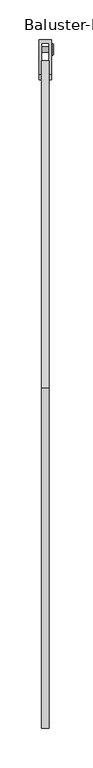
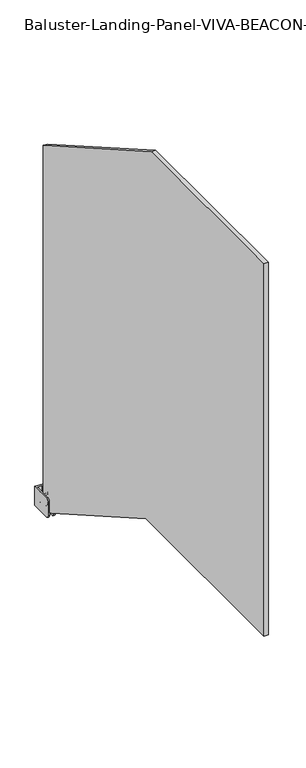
"""IFC4 building model written with IfcOpenShell, lengths in millimetres: railing geometry, Baluster-Landing-Panel-VIVA-BEACON-Lower : Standard_Glass."""

import ifcopenshell
import ifcopenshell.guid

model = None  # the IFC model being written
_history = None  # IfcOwnerHistory: only IFC2X3 demands one
_inside = {}  # id of a spatial element -> (the spatial element, [elements in it])
_under = {}  # id of a project, library or spatial element -> (it, [spatial elements below it])
_declared = {}  # id of a project -> (the project, [libraries it declares])
_typed = {}  # id of a type object -> (the type object, [elements of that type])
_made_of = {}  # id of a material, layer set ... -> (it, [elements and type objects made of it])


def new_model(schema):
    """Start an empty IFC model of exactly this schema.

    Asked for "IFC4X3", IfcOpenShell would pick the latest addendum, in which some entities
    have other attributes; the version numbers below select the first issue.
    IFC2X3 requires an IfcOwnerHistory on every rooted entity: one is made here for all.
    """
    global model, _history
    if schema == "IFC4X3":
        model = ifcopenshell.file(schema_version=(4, 3, 0, 0))
    else:
        model = ifcopenshell.file(schema=schema)
    _inside.clear()
    _under.clear()
    _declared.clear()
    _typed.clear()
    _made_of.clear()
    _history = None
    if model.schema == "IFC2X3":
        org = make("IfcOrganization", Name="unknown")
        user = make(
            "IfcPersonAndOrganization",
            ThePerson=make("IfcPerson", FamilyName="unknown"),
            TheOrganization=org,
        )
        app = make(
            "IfcApplication",
            ApplicationDeveloper=org,
            Version="unknown",
            ApplicationFullName="unknown",
            ApplicationIdentifier="unknown",
        )
        _history = make(
            "IfcOwnerHistory",
            OwningUser=user,
            OwningApplication=app,
            ChangeAction="ADDED",
            CreationDate=0,
        )
    return model


def make(cls, **values):
    """One entity of the class cls with the attributes given. An attribute that is None is left unset."""
    return model.create_entity(
        cls, **{name: value for name, value in values.items() if value is not None}
    )


def rooted(cls, **values):
    """An entity with a GlobalId (a new one), such as an element, a storey or a relation."""
    return make(cls, GlobalId=ifcopenshell.guid.new(), OwnerHistory=_history, **values)


def si_unit(unit_type, name, prefix=None):
    """IfcSIUnit, for example si_unit("LENGTHUNIT", "METRE", prefix="MILLI")."""
    return make("IfcSIUnit", UnitType=unit_type, Prefix=prefix, Name=name)


def assignment(units):
    """IfcUnitAssignment: the units of a project."""
    return None if units is None else make("IfcUnitAssignment", Units=units)


def point(xyz):
    """IfcCartesianPoint."""
    return None if xyz is None else make("IfcCartesianPoint", Coordinates=xyz)


def direction(xyz):
    """IfcDirection."""
    return None if xyz is None else make("IfcDirection", DirectionRatios=xyz)


def frame(location, z_axis=None, x_axis=None):
    """IfcAxis2Placement3D, a coordinate frame: its origin and axes. An axis left out is left unset."""
    return make(
        "IfcAxis2Placement3D",
        Location=point(location),
        Axis=direction(z_axis),
        RefDirection=direction(x_axis),
    )


def origin():
    """The frame at (0, 0, 0) with its axes left unset."""
    return frame((0.0, 0.0, 0.0))


def place(relative_to, where):
    """IfcLocalPlacement: puts the frame where relative to a parent placement (None: the world)."""
    return make(
        "IfcLocalPlacement", PlacementRelTo=relative_to, RelativePlacement=where
    )


def context(
    kind, dimensions, precision=None, world=None, true_north=None, identifier=None
):
    """IfcGeometricRepresentationContext, for example the 3D "Model" context."""
    return make(
        "IfcGeometricRepresentationContext",
        ContextIdentifier=identifier,
        ContextType=kind,
        CoordinateSpaceDimension=dimensions,
        Precision=precision,
        WorldCoordinateSystem=world,
        TrueNorth=true_north,
    )


def project(units=None, contexts=None):
    """IfcProject with its units and contexts."""
    return rooted(
        "IfcProject",
        Name="project",
        RepresentationContexts=contexts,
        UnitsInContext=assignment(units),
    )


def spatial(cls, under=None, at=None, **own):
    """A site, building, storey or space (cls), placed at a placement, below another one or the project."""
    s = rooted(cls, ObjectPlacement=at, **own)
    if under is not None:
        _under.setdefault(under.id(), (under, []))[1].append(s)
    return s


def polyline(points):
    """IfcPolyline through the points."""
    return make("IfcPolyline", Points=[point(p) for p in points])


def circle_curve(where, radius):
    """IfcCircle in the frame where."""
    return make("IfcCircle", Position=where, Radius=radius)


def ellipse_curve(where, semi_axis1, semi_axis2):
    """IfcEllipse in the frame where."""
    return make(
        "IfcEllipse", Position=where, SemiAxis1=semi_axis1, SemiAxis2=semi_axis2
    )


def trimmed(basis, trim1, trim2, sense, master):
    """IfcTrimmedCurve: the piece of a basis curve between two trims."""
    return make(
        "IfcTrimmedCurve",
        BasisCurve=basis,
        Trim1=trim1,
        Trim2=trim2,
        SenseAgreement=sense,
        MasterRepresentation=master,
    )


def outline(outer, holes=None, kind="AREA"):
    """IfcArbitraryClosedProfileDef: a profile drawn as a closed curve; with holes, ...WithVoids."""
    if holes is None:
        return make("IfcArbitraryClosedProfileDef", ProfileType=kind, OuterCurve=outer)
    return make(
        "IfcArbitraryProfileDefWithVoids",
        ProfileType=kind,
        OuterCurve=outer,
        InnerCurves=holes,
    )


def extrude(swept, where, along, depth):
    """IfcExtrudedAreaSolid: the profile swept, set in the frame where, extruded along a direction by depth."""
    return make(
        "IfcExtrudedAreaSolid",
        SweptArea=swept,
        Position=where,
        ExtrudedDirection=direction(along),
        Depth=depth,
    )


def shape(context_of_items, identifier, shape_type, items):
    """IfcShapeRepresentation: the items that make up one representation, for example the "Body"."""
    return make(
        "IfcShapeRepresentation",
        ContextOfItems=context_of_items,
        RepresentationIdentifier=identifier,
        RepresentationType=shape_type,
        Items=items,
    )


def source(mapping_origin, context_of_items, identifier, shape_type, items):
    """IfcRepresentationMap: a shape defined once, which mapped items show again and again."""
    return make(
        "IfcRepresentationMap",
        MappingOrigin=mapping_origin,
        MappedRepresentation=shape(context_of_items, identifier, shape_type, items),
    )


def transform(
    local_origin,
    x_axis=None,
    y_axis=None,
    z_axis=None,
    scale=None,
    scale2=None,
    scale3=None,
    uniform=True,
):
    """IfcCartesianTransformationOperator3D, or its non-uniform kind. x_axis, y_axis, z_axis: its Axis1, 2, 3."""
    if uniform:
        return make(
            "IfcCartesianTransformationOperator3D",
            Axis1=direction(x_axis),
            Axis2=direction(y_axis),
            LocalOrigin=point(local_origin),
            Scale=scale,
            Axis3=direction(z_axis),
        )
    return make(
        "IfcCartesianTransformationOperator3DnonUniform",
        Axis1=direction(x_axis),
        Axis2=direction(y_axis),
        LocalOrigin=point(local_origin),
        Scale=scale,
        Axis3=direction(z_axis),
        Scale2=scale2,
        Scale3=scale3,
    )


def mapped(mapping_source, mapping_target):
    """IfcMappedItem: shows the shape of a source again, moved by a transform."""
    return make(
        "IfcMappedItem", MappingSource=mapping_source, MappingTarget=mapping_target
    )


def made_of(thing, what):
    """Note that an element or type object is made of a material, layer set ...; save() writes the relation."""
    if what is not None:
        _made_of.setdefault(what.id(), (what, []))[1].append(thing)
    return thing


def element(
    cls,
    number,
    at=None,
    inside=None,
    cuts=None,
    type_object=None,
    material=None,
    context=None,
    identifier="Body",
    shape_type=None,
    held_by="IfcProductDefinitionShape",
    body=None,
    shapes=None,
    **own,
):
    """One element of the class cls, such as IfcWall. Its Tag is "e" and its number.

    at: its placement. inside: the storey or other place that contains it. cuts: it is an
    opening in that element (IfcRelVoidsElement). A single representation is given by context,
    identifier, shape_type and body (its items); several are given by shapes. held_by: the class
    of the entity that holds the representations. save() writes the other relations.
    """
    e = rooted(cls, Tag="e%d" % number, ObjectPlacement=at, **own)
    if body is not None:
        shapes = [shape(context, identifier, shape_type, body)]
    if shapes is not None:
        e.Representation = make(held_by, Representations=shapes)
    if inside is not None:
        _inside.setdefault(inside.id(), (inside, []))[1].append(e)
    if cuts is not None:
        rooted(
            "IfcRelVoidsElement", RelatingBuildingElement=cuts, RelatedOpeningElement=e
        )
    if type_object is not None:
        _typed.setdefault(type_object.id(), (type_object, []))[1].append(e)
    return made_of(e, material)


def aggregate(whole, parts):
    """IfcRelAggregates: a whole, such as a stair, and the parts it consists of."""
    return rooted("IfcRelAggregates", RelatingObject=whole, RelatedObjects=parts)


def save(model, path):
    """Write the relations noted so far, then the file.

    IfcRelAggregates (storeys below a building ...), IfcRelContainedInSpatialStructure (elements
    in a storey), IfcRelDefinesByType, IfcRelAssociatesMaterial and IfcRelDeclares: one each for
    every whole, place, type object, material and project.
    """
    for whole, parts in _under.values():
        aggregate(whole, parts)
    for where, things in _inside.values():
        rooted(
            "IfcRelContainedInSpatialStructure",
            RelatedElements=things,
            RelatingStructure=where,
        )
    for kind, things in _typed.values():
        rooted("IfcRelDefinesByType", RelatedObjects=things, RelatingType=kind)
    for what, things in _made_of.values():
        rooted("IfcRelAssociatesMaterial", RelatedObjects=things, RelatingMaterial=what)
    for by, libraries in _declared.values():
        rooted("IfcRelDeclares", RelatingContext=by, RelatedDefinitions=libraries)
    model.write(path)


def plane_surface(at):
    """IfcPlane: the flat surface through the origin of the frame at, square to its z axis."""
    return make("IfcPlane", Position=at)


def cylinder_surface(at, radius):
    """IfcCylindricalSurface: all points at the distance radius from the z axis of the frame at."""
    return make("IfcCylindricalSurface", Position=at, Radius=radius)


def revolved_surface(curve, axis_point, axis_direction):
    """IfcSurfaceOfRevolution: the curve turned about the line through axis_point along axis_direction."""
    return make(
        "IfcSurfaceOfRevolution",
        SweptCurve=make("IfcArbitraryOpenProfileDef", ProfileType="CURVE", Curve=curve),
        AxisPosition=make("IfcAxis1Placement", Location=point(axis_point), Axis=direction(axis_direction)),
    )


def advanced_brep(points, edges, surfaces, faces):
    """IfcAdvancedBrep: a solid bounded by faces that lie on surfaces and meet in shared edges.

    An edge is (start, end): straight between two places in points (the first is 0);
    or (start, end, curve); or (start, end, curve, False) where it runs against its curve.
    A face is (place in surfaces, loops), or (place, loops, False) where it looks against
    its surface's normal. A loop lists edges by number (the first is 1), with a minus sign
    where the edge is run from its end to its start. The first loop is the outer one.
    """
    corners = [point(p) for p in points]
    vertices = [make("IfcVertexPoint", VertexGeometry=c) for c in corners]
    made = []
    for start, end, *more in edges:
        made.append(
            make(
                "IfcEdgeCurve",
                EdgeStart=vertices[start],
                EdgeEnd=vertices[end],
                EdgeGeometry=more[0] if more else make("IfcPolyline", Points=[corners[start], corners[end]]),
                SameSense=more[1] if len(more) > 1 else True,
            )
        )
    hull = []
    for where, loops, *sense in faces:
        bounds = []
        for j, loop in enumerate(loops):
            ring = [make("IfcOrientedEdge", EdgeElement=made[abs(k) - 1], Orientation=k > 0) for k in loop]
            bounds.append(
                make(
                    "IfcFaceOuterBound" if j == 0 else "IfcFaceBound",
                    Bound=make("IfcEdgeLoop", EdgeList=ring),
                    Orientation=True,
                )
            )
        hull.append(make("IfcAdvancedFace", Bounds=bounds, FaceSurface=surfaces[where], SameSense=sense[0] if sense else True))
    return make("IfcAdvancedBrep", Outer=make("IfcClosedShell", CfsFaces=hull))


def baluster_landing_panel_viva_beacon_lower_standard_glass_8f8fe665(model_context):
    return source(origin(), model_context, "Body", "SolidModel", [
        advanced_brep(
        [(33.3375, 17.8996011, 0.771525), (46.0375, 17.8996011, 0.771525), (46.0375, 10.8087093, 0.771525), (33.3375, 10.8087093, 0.771525), (46.0375, 21.7619443, 0.771525), (46.0375, 6.9463661, 0.771525), (46.904612, 16.0102306, 0.771525), (33.3375, 16.0102306, 0.771525), (33.3375, 12.6980798, 0.771525), (46.904612, 12.6980798, 0.771525), (46.8723449, 21.7619443, 0.771525), (48.1536169, 20.4806723, 0.771525), (48.1536169, 8.2276382, 0.771525), (46.8723449, 6.9463661, 0.771525), (48.1536169, 18.6527508, 0.771525), (48.1536169, 10.0555597, 0.771525), (46.904612, 18.6527508, 0.771525), (46.904612, 10.0555597, 0.771525)],
        [
            (0, 1),
            (1, 2, circle_curve(frame((46.0375, 14.3541552, 0.771525), z_axis=(-1.0, 0.0, 0.0), x_axis=(0.0, -1.0, 0.0)), 3.5454459)),
            (2, 3),
            (3, 0, circle_curve(frame((33.3375, 14.3541552, 0.771525), z_axis=(1.0, 0.0, 0.0), x_axis=(0.0, -1.0, 0.0)), 3.5454459)),
            (2, 1, circle_curve(frame((46.0375, 14.3541552, 0.771525), z_axis=(-1.0, 0.0, 0.0), x_axis=(0.0, -1.0, 0.0)), 3.5454459)),
            (0, 3, circle_curve(frame((33.3375, 14.3541552, 0.771525), z_axis=(1.0, 0.0, 0.0), x_axis=(0.0, -1.0, 0.0)), 3.5454459)),
            (1, 4),
            (4, 5, circle_curve(frame((46.0375, 14.3541552, 0.771525), z_axis=(-1.0, 0.0, 0.0), x_axis=(0.0, -1.0, 0.0)), 7.4077891)),
            (5, 2),
            (5, 4, circle_curve(frame((46.0375, 14.3541552, 0.771525), z_axis=(-1.0, 0.0, 0.0), x_axis=(0.0, -1.0, 0.0)), 7.4077891)),
            (6, 7),
            (7, 8, circle_curve(frame((33.3375, 14.3541552, 0.771525), z_axis=(-1.0, 0.0, 0.0), x_axis=(0.0, -1.0, 0.0)), 1.6560754)),
            (8, 9),
            (9, 6, circle_curve(frame((46.904612, 14.3541552, 0.771525), z_axis=(1.0, 0.0, 0.0), x_axis=(0.0, -1.0, 0.0)), 1.6560754)),
            (8, 7, circle_curve(frame((33.3375, 14.3541552, 0.771525), z_axis=(-1.0, 0.0, 0.0), x_axis=(0.0, -1.0, 0.0)), 1.6560754)),
            (6, 9, circle_curve(frame((46.904612, 14.3541552, 0.771525), z_axis=(1.0, 0.0, 0.0), x_axis=(0.0, -1.0, 0.0)), 1.6560754)),
            (10, 11, circle_curve(frame((46.8723449, 20.4806723, 0.771525), z_axis=(0.0, 0.0, -1.0), x_axis=(0.0, 1.0, 0.0)), 1.281272)),
            (11, 12, circle_curve(frame((48.1536169, 14.3541552, 0.771525), z_axis=(-1.0, 0.0, 0.0), x_axis=(0.0, -1.0, 0.0)), 6.1265171)),
            (12, 13, circle_curve(frame((46.8723449, 8.2276382, 0.771525), z_axis=(0.0, 0.0, -1.0), x_axis=(0.0, -1.0, 0.0)), 1.281272)),
            (13, 10, circle_curve(frame((46.8723449, 14.3541552, 0.771525), z_axis=(1.0, 0.0, 0.0), x_axis=(0.0, -1.0, 0.0)), 7.4077891)),
            (12, 11, circle_curve(frame((48.1536169, 14.3541552, 0.771525), z_axis=(-1.0, 0.0, 0.0), x_axis=(0.0, -1.0, 0.0)), 6.1265171)),
            (10, 13, circle_curve(frame((46.8723449, 14.3541552, 0.771525), z_axis=(1.0, 0.0, 0.0), x_axis=(0.0, -1.0, 0.0)), 7.4077891)),
            (11, 14),
            (14, 15, circle_curve(frame((48.1536169, 14.3541552, 0.771525), z_axis=(-1.0, 0.0, 0.0), x_axis=(0.0, -1.0, 0.0)), 4.2985955)),
            (15, 12),
            (15, 14, circle_curve(frame((48.1536169, 14.3541552, 0.771525), z_axis=(-1.0, 0.0, 0.0), x_axis=(0.0, -1.0, 0.0)), 4.2985955)),
            (4, 10),
            (13, 5),
            (7, 0),
            (3, 8),
            (14, 16),
            (16, 17, circle_curve(frame((46.904612, 14.3541552, 0.771525), z_axis=(-1.0, 0.0, 0.0), x_axis=(0.0, -1.0, 0.0)), 4.2985955)),
            (17, 15),
            (17, 16, circle_curve(frame((46.904612, 14.3541552, 0.771525), z_axis=(-1.0, 0.0, 0.0), x_axis=(0.0, -1.0, 0.0)), 4.2985955)),
            (16, 6),
            (9, 17),
        ],
        [
            cylinder_surface(frame((42.5407669, 14.3541552, 0.771525), z_axis=(-1.0, 0.0, 0.0), x_axis=(0.0, -1.0, 0.0)), 3.5454459),
            plane_surface(frame((46.0375, 14.3541552, 0.771525), z_axis=(-1.0, 0.0, 0.0), x_axis=(0.0, -1.0, 0.0))),
            revolved_surface(polyline([(33.3375, 12.698079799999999, 0.771525), (46.904612, 12.698079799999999, 0.771525)]), (42.5407669, 14.3541552, 0.771525), (-1.0, 0.0, 0.0)),
            revolved_surface(trimmed(ellipse_curve(frame((46.8723449, 8.2276382, 0.771525), z_axis=(0.0, 0.0, -1.0), x_axis=(0.0, -1.0, 0.0)), 1.281272, 1.281272), [point((48.1536169, 8.2276382, 0.771525))], [point((46.8723449, 6.9463661, 0.771525))], True, "CARTESIAN"), (42.5407669, 14.3541552, 0.771525), (-1.0, 0.0, 0.0)),
            plane_surface(frame((48.1536169, 14.3541552, 0.771525), z_axis=(1.0, 0.0, 0.0), x_axis=(0.0, -1.0, 0.0))),
            cylinder_surface(frame((42.5407669, 14.3541552, 0.771525), z_axis=(-1.0, 0.0, 0.0), x_axis=(0.0, -1.0, 0.0)), 7.4077891),
            plane_surface(frame((33.3375, 14.3541552, 0.771525), z_axis=(-1.0, 0.0, 0.0), x_axis=(0.0, -1.0, 0.0))),
            revolved_surface(polyline([(46.904612, 10.0555597, 0.771525), (48.1536169, 10.0555597, 0.771525)]), (42.5407669, 14.3541552, 0.771525), (-1.0, 0.0, 0.0)),
            plane_surface(frame((46.904612, 14.3541552, 0.771525), z_axis=(1.0, 0.0, 0.0), x_axis=(0.0, -1.0, 0.0))),
        ],
        [
            (0, [[1, 2, 3, 4]]),
            (0, [[-3, 5, -1, 6]]),
            (1, [[7, 8, 9, -2]]),
            (1, [[-9, 10, -7, -5]]),
            (2, [[11, 12, 13, 14]]),
            (2, [[-13, 15, -11, 16]]),
            (3, [[17, 18, 19, 20]]),
            (3, [[-19, 21, -17, 22]]),
            (4, [[23, 24, 25, -18]]),
            (4, [[-25, 26, -23, -21]]),
            (5, [[27, -20, 28, -8]]),
            (5, [[-28, -22, -27, -10]]),
            (6, [[29, -4, 30, -12]]),
            (6, [[-30, -6, -29, -15]]),
            (7, [[31, 32, 33, -24]]),
            (7, [[-33, 34, -31, -26]]),
            (8, [[35, -14, 36, -32]]),
            (8, [[-36, -16, -35, -34]]),
        ],
    ),
        advanced_brep(
        [(33.3375, 17.8996011, -23.834725), (46.0375, 17.8996011, -23.834725), (46.0375, 10.8087093, -23.834725), (33.3375, 10.8087093, -23.834725), (46.0375, 21.7619443, -23.834725), (46.0375, 6.9463661, -23.834725), (46.904612, 16.0102306, -23.834725), (33.3375, 16.0102306, -23.834725), (33.3375, 12.6980798, -23.834725), (46.904612, 12.6980798, -23.834725), (46.8723449, 21.7619443, -23.834725), (48.1536169, 20.4806723, -23.834725), (48.1536169, 8.2276382, -23.834725), (46.8723449, 6.9463661, -23.834725), (48.1536169, 18.6527508, -23.834725), (48.1536169, 10.0555597, -23.834725), (46.904612, 18.6527508, -23.834725), (46.904612, 10.0555597, -23.834725)],
        [
            (0, 1),
            (1, 2, circle_curve(frame((46.0375, 14.3541552, -23.834725), z_axis=(-1.0, 0.0, 0.0), x_axis=(0.0, -1.0, 0.0)), 3.5454459)),
            (2, 3),
            (3, 0, circle_curve(frame((33.3375, 14.3541552, -23.834725), z_axis=(1.0, 0.0, 0.0), x_axis=(0.0, -1.0, 0.0)), 3.5454459)),
            (2, 1, circle_curve(frame((46.0375, 14.3541552, -23.834725), z_axis=(-1.0, 0.0, 0.0), x_axis=(0.0, -1.0, 0.0)), 3.5454459)),
            (0, 3, circle_curve(frame((33.3375, 14.3541552, -23.834725), z_axis=(1.0, 0.0, 0.0), x_axis=(0.0, -1.0, 0.0)), 3.5454459)),
            (1, 4),
            (4, 5, circle_curve(frame((46.0375, 14.3541552, -23.834725), z_axis=(-1.0, 0.0, 0.0), x_axis=(0.0, -1.0, 0.0)), 7.4077891)),
            (5, 2),
            (5, 4, circle_curve(frame((46.0375, 14.3541552, -23.834725), z_axis=(-1.0, 0.0, 0.0), x_axis=(0.0, -1.0, 0.0)), 7.4077891)),
            (6, 7),
            (7, 8, circle_curve(frame((33.3375, 14.3541552, -23.834725), z_axis=(-1.0, 0.0, 0.0), x_axis=(0.0, -1.0, 0.0)), 1.6560754)),
            (8, 9),
            (9, 6, circle_curve(frame((46.904612, 14.3541552, -23.834725), z_axis=(1.0, 0.0, 0.0), x_axis=(0.0, -1.0, 0.0)), 1.6560754)),
            (8, 7, circle_curve(frame((33.3375, 14.3541552, -23.834725), z_axis=(-1.0, 0.0, 0.0), x_axis=(0.0, -1.0, 0.0)), 1.6560754)),
            (6, 9, circle_curve(frame((46.904612, 14.3541552, -23.834725), z_axis=(1.0, 0.0, 0.0), x_axis=(0.0, -1.0, 0.0)), 1.6560754)),
            (10, 11, circle_curve(frame((46.8723449, 20.4806723, -23.834725), z_axis=(0.0, 0.0, -1.0), x_axis=(0.0, 1.0, 0.0)), 1.281272)),
            (11, 12, circle_curve(frame((48.1536169, 14.3541552, -23.834725), z_axis=(-1.0, 0.0, 0.0), x_axis=(0.0, -1.0, 0.0)), 6.1265171)),
            (12, 13, circle_curve(frame((46.8723449, 8.2276382, -23.834725), z_axis=(0.0, 0.0, -1.0), x_axis=(0.0, -1.0, 0.0)), 1.281272)),
            (13, 10, circle_curve(frame((46.8723449, 14.3541552, -23.834725), z_axis=(1.0, 0.0, 0.0), x_axis=(0.0, -1.0, 0.0)), 7.4077891)),
            (12, 11, circle_curve(frame((48.1536169, 14.3541552, -23.834725), z_axis=(-1.0, 0.0, 0.0), x_axis=(0.0, -1.0, 0.0)), 6.1265171)),
            (10, 13, circle_curve(frame((46.8723449, 14.3541552, -23.834725), z_axis=(1.0, 0.0, 0.0), x_axis=(0.0, -1.0, 0.0)), 7.4077891)),
            (11, 14),
            (14, 15, circle_curve(frame((48.1536169, 14.3541552, -23.834725), z_axis=(-1.0, 0.0, 0.0), x_axis=(0.0, -1.0, 0.0)), 4.2985955)),
            (15, 12),
            (15, 14, circle_curve(frame((48.1536169, 14.3541552, -23.834725), z_axis=(-1.0, 0.0, 0.0), x_axis=(0.0, -1.0, 0.0)), 4.2985955)),
            (7, 0),
            (3, 8),
            (4, 10),
            (13, 5),
            (14, 16),
            (16, 17, circle_curve(frame((46.904612, 14.3541552, -23.834725), z_axis=(-1.0, 0.0, 0.0), x_axis=(0.0, -1.0, 0.0)), 4.2985955)),
            (17, 15),
            (17, 16, circle_curve(frame((46.904612, 14.3541552, -23.834725), z_axis=(-1.0, 0.0, 0.0), x_axis=(0.0, -1.0, 0.0)), 4.2985955)),
            (16, 6),
            (9, 17),
        ],
        [
            cylinder_surface(frame((42.5407669, 14.3541552, -23.834725), z_axis=(-1.0, 0.0, 0.0), x_axis=(0.0, -1.0, 0.0)), 3.5454459),
            plane_surface(frame((46.0375, 14.3541552, -23.834725), z_axis=(-1.0, 0.0, 0.0), x_axis=(0.0, -1.0, 0.0))),
            revolved_surface(polyline([(33.3375, 12.698079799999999, -23.834725), (46.904612, 12.698079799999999, -23.834725)]), (42.5407669, 14.3541552, -23.834725), (-1.0, 0.0, 0.0)),
            revolved_surface(trimmed(ellipse_curve(frame((46.8723449, 8.2276382, -23.834725), z_axis=(0.0, 0.0, -1.0), x_axis=(0.0, -1.0, 0.0)), 1.281272, 1.281272), [point((48.1536169, 8.2276382, -23.834725))], [point((46.8723449, 6.9463661, -23.834725))], True, "CARTESIAN"), (42.5407669, 14.3541552, -23.834725), (-1.0, 0.0, 0.0)),
            plane_surface(frame((48.1536169, 14.3541552, -23.834725), z_axis=(1.0, 0.0, 0.0), x_axis=(0.0, -1.0, 0.0))),
            plane_surface(frame((33.3375, 14.3541552, -23.834725), z_axis=(-1.0, 0.0, 0.0), x_axis=(0.0, -1.0, 0.0))),
            cylinder_surface(frame((42.5407669, 14.3541552, -23.834725), z_axis=(-1.0, 0.0, 0.0), x_axis=(0.0, -1.0, 0.0)), 7.4077891),
            revolved_surface(polyline([(46.904612, 10.0555597, -23.834725), (48.1536169, 10.0555597, -23.834725)]), (42.5407669, 14.3541552, -23.834725), (-1.0, 0.0, 0.0)),
            plane_surface(frame((46.904612, 14.3541552, -23.834725), z_axis=(1.0, 0.0, 0.0), x_axis=(0.0, -1.0, 0.0))),
        ],
        [
            (0, [[1, 2, 3, 4]]),
            (0, [[-3, 5, -1, 6]]),
            (1, [[7, 8, 9, -2]]),
            (1, [[-9, 10, -7, -5]]),
            (2, [[11, 12, 13, 14]]),
            (2, [[-13, 15, -11, 16]]),
            (3, [[17, 18, 19, 20]]),
            (3, [[-19, 21, -17, 22]]),
            (4, [[23, 24, 25, -18]]),
            (4, [[-25, 26, -23, -21]]),
            (5, [[27, -4, 28, -12]]),
            (5, [[-28, -6, -27, -15]]),
            (6, [[29, -20, 30, -8]]),
            (6, [[-30, -22, -29, -10]]),
            (7, [[31, 32, 33, -24]]),
            (7, [[-33, 34, -31, -26]]),
            (8, [[35, -14, 36, -32]]),
            (8, [[-36, -16, -35, -34]]),
        ],
    ),
        extrude(outline(polyline([(18.4480835, -23.834725), (16.4011194, -27.3801709), (12.3071911, -27.3801709), (10.2602269, -23.834725), (12.3071911, -20.2892791), (16.4011194, -20.2892791), (18.4480835, -23.834725)])), frame((46.904612, 0.0, 0.0), z_axis=(1.0, 0.0, 0.0), x_axis=(0.0, 1.0, 0.0)), (0.0, 0.0, 1.0), 1.4969696),
        advanced_brep(
        [(46.0375, 26.9875, 10.6934), (46.0375, -17.4625, 10.6934), (46.0375, -23.8125, 4.3434), (46.0375, -23.8125, -27.4066), (46.0375, -17.4625, -33.7566), (46.0375, 26.9875, -33.7566), (30.1625, 26.9875, 10.6934), (30.1625, 26.9875, -33.7566), (30.1625, -17.4625, -33.7566), (30.1625, -23.8125, -27.4066), (30.1625, -23.8125, 4.3434), (30.1625, -17.4625, 10.6934), (42.8625, -17.4625, -33.7566), (42.8625, 22.2694196, -33.7566), (33.3375, 22.2694196, -33.7566), (33.3375, -17.4625, -33.7566), (42.8625, 22.2694196, 10.6934), (33.3375, 22.2694196, 10.6934), (42.8625, -23.8125, -27.4066), (42.8625, -23.8125, 4.3434), (42.8625, -17.4625, 10.6934), (33.3375, -17.4625, 10.6934), (33.3375, -23.8125, 4.3434), (33.3375, -23.8125, -27.4066)],
        [
            (0, 1),
            (1, 2, circle_curve(frame((46.0375, -17.4625, 4.3434), z_axis=(1.0, 0.0, 0.0), x_axis=(0.0, -1.0, 0.0)), 6.35)),
            (2, 3),
            (3, 4, circle_curve(frame((46.0375, -17.4625, -27.4066), z_axis=(1.0, 0.0, 0.0), x_axis=(0.0, -1.0, 0.0)), 6.35)),
            (4, 5),
            (5, 0),
            (6, 7),
            (7, 8),
            (8, 9, circle_curve(frame((30.1625, -17.4625, -27.4066), z_axis=(-1.0, 0.0, 0.0), x_axis=(0.0, -1.0, 0.0)), 6.35)),
            (9, 10),
            (10, 11, circle_curve(frame((30.1625, -17.4625, 4.3434), z_axis=(-1.0, 0.0, 0.0), x_axis=(0.0, -1.0, 0.0)), 6.35)),
            (11, 6),
            (5, 7),
            (6, 0),
            (4, 12),
            (12, 13),
            (13, 14),
            (14, 15),
            (15, 8),
            (13, 16),
            (16, 17),
            (17, 14),
            (12, 18, circle_curve(frame((42.8625, -17.4625, -27.4066), z_axis=(-1.0, 0.0, 0.0), x_axis=(0.0, -1.0, 0.0)), 6.35)),
            (18, 19),
            (19, 20, circle_curve(frame((42.8625, -17.4625, 4.3434), z_axis=(-1.0, 0.0, 0.0), x_axis=(0.0, -1.0, 0.0)), 6.35)),
            (20, 16),
            (17, 21),
            (21, 22, circle_curve(frame((33.3375, -17.4625, 4.3434), z_axis=(1.0, 0.0, 0.0), x_axis=(0.0, -1.0, 0.0)), 6.35)),
            (22, 23),
            (23, 15, circle_curve(frame((33.3375, -17.4625, -27.4066), z_axis=(1.0, 0.0, 0.0), x_axis=(0.0, -1.0, 0.0)), 6.35)),
            (23, 9),
            (3, 18),
            (22, 10),
            (2, 19),
            (21, 11),
            (1, 20),
        ],
        [
            plane_surface(frame((46.0375, 26.9875, -33.7566), z_axis=(1.0, 0.0, 0.0), x_axis=(0.0, 0.0, -1.0))),
            plane_surface(frame((30.1625, 26.9875, -33.7566), z_axis=(-1.0, 0.0, 0.0), x_axis=(0.0, 0.0, 1.0))),
            plane_surface(frame((46.0375, 26.9875, 10.6934), z_axis=(0.0, 1.0, 0.0), x_axis=(-1.0, 0.0, 0.0))),
            plane_surface(frame((46.0375, 26.9875, -33.7566), z_axis=(0.0, 0.0, -1.0), x_axis=(-1.0, 0.0, 0.0))),
            plane_surface(frame((33.3375, 22.2694196, 23.3934), z_axis=(0.0, -1.0, 0.0), x_axis=(0.0, 0.0, -1.0))),
            plane_surface(frame((42.8625, 22.2694196, 23.3934), z_axis=(-1.0, 0.0, 0.0), x_axis=(0.0, 0.0, -1.0))),
            plane_surface(frame((33.3375, -36.5125, 23.3934), z_axis=(1.0, 0.0, 0.0), x_axis=(0.0, 0.0, -1.0))),
            cylinder_surface(frame((30.1625, -17.4625, -27.4066), z_axis=(1.0, 0.0, 0.0), x_axis=(0.0, -1.0, 0.0)), 6.35),
            plane_surface(frame((46.0375, -23.8125, -27.4066), z_axis=(0.0, -1.0, 0.0), x_axis=(-1.0, 0.0, 0.0))),
            cylinder_surface(frame((30.1625, -17.4625, 4.3434), z_axis=(1.0, 0.0, 0.0), x_axis=(0.0, -1.0, 0.0)), 6.35),
            plane_surface(frame((46.0375, -17.4625, 10.6934), z_axis=(0.0, 0.0, 1.0), x_axis=(-1.0, 0.0, 0.0))),
        ],
        [
            (0, [[1, 2, 3, 4, 5, 6]]),
            (1, [[7, 8, 9, 10, 11, 12]]),
            (2, [[13, -7, 14, -6]]),
            (3, [[15, 16, 17, 18, 19, -8, -13, -5]]),
            (4, [[-17, 20, 21, 22]]),
            (5, [[-16, 23, 24, 25, 26, -20]]),
            (6, [[27, 28, 29, 30, -18, -22]]),
            (7, [[-19, -30, 31, -9]]),
            (7, [[32, -23, -15, -4]]),
            (8, [[-31, -29, 33, -10]]),
            (8, [[34, -24, -32, -3]]),
            (9, [[-33, -28, 35, -11]]),
            (9, [[36, -25, -34, -2]]),
            (10, [[-14, -12, -35, -27, -21, -26, -36, -1]]),
        ],
    ),
        extrude(outline(polyline([(-414.401, 1059.4086), (0.0, 822.6548592), (0.0, -36.0426), (-394.0827353, 189.103), (-846.2424506, 189.103), (-846.2424506, 1059.4086), (-414.401, 1059.4086)])), frame((33.3375, 0.0, 0.0), z_axis=(1.0, 0.0, 0.0), x_axis=(0.0, 1.0, 0.0)), (0.0, 0.0, 1.0), 9.525),
    ])


if __name__ == "__main__":
    model = new_model("IFC4")
    model_context = context("Model", 3, world=origin())
    ifc_project = project(units=[si_unit("LENGTHUNIT", "METRE", prefix="MILLI")], contexts=[model_context])
    site = spatial("IfcSite", under=ifc_project)
    building = spatial("IfcBuilding", under=site)
    placement = place(None, origin())
    baluster_landing_panel_viva_beacon_lower_standard_glass_shape = baluster_landing_panel_viva_beacon_lower_standard_glass_8f8fe665(model_context)
    element("IfcRailing", 1, ObjectType="Baluster-Landing-Panel-VIVA-BEACON-Lower : Standard_Glass", at=placement, inside=building, context=model_context, shape_type="MappedRepresentation", body=[
        mapped(baluster_landing_panel_viva_beacon_lower_standard_glass_shape, transform((0.0, 0.0, 0.0), x_axis=(1.0, 0.0, 0.0), y_axis=(0.0, 1.0, 0.0), z_axis=(0.0, 0.0, 1.0))),
    ])
    save(model, "model.ifc")
